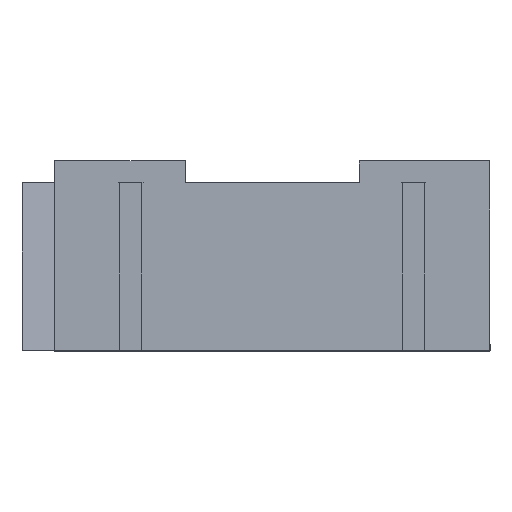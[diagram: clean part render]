
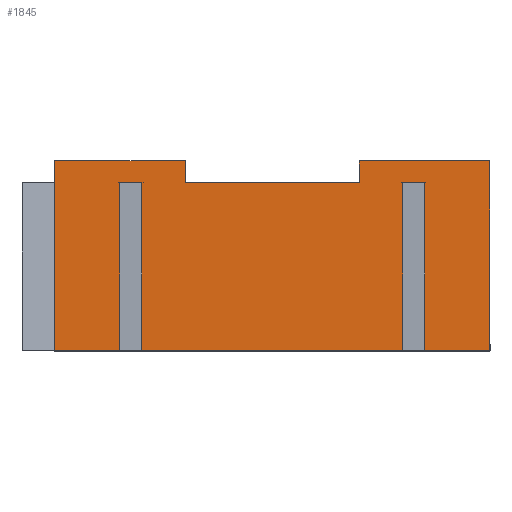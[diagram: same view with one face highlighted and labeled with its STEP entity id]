
A CAD part, top view. The second image highlights one B-rep face of the part: STEP entity #1845.
In plain terms, the highlighted planar face has unit normal (0, 0, 1).
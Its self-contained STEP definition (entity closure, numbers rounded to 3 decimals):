
#20 = VERTEX_POINT ( 'NONE', #1684 ) ;
#52 = LINE ( 'NONE', #1175, #1806 ) ;
#71 = CARTESIAN_POINT ( 'NONE',  ( -5.987, 7.7, 10. ) ) ;
#91 = LINE ( 'NONE', #1983, #540 ) ;
#120 = LINE ( 'NONE', #874, #1703 ) ;
#144 = EDGE_CURVE ( 'NONE', #1159, #496, #935, .T. ) ;
#177 = VECTOR ( 'NONE', #736, 1000. ) ;
#198 = LINE ( 'NONE', #667, #1369 ) ;
#200 = DIRECTION ( 'NONE',  ( 1., 0., 0. ) ) ;
#214 = ORIENTED_EDGE ( 'NONE', *, *, #1905, .F. ) ;
#241 = ORIENTED_EDGE ( 'NONE', *, *, #762, .T. ) ;
#246 = ORIENTED_EDGE ( 'NONE', *, *, #1658, .F. ) ;
#298 = ORIENTED_EDGE ( 'NONE', *, *, #1600, .T. ) ;
#330 = ORIENTED_EDGE ( 'NONE', *, *, #1887, .T. ) ;
#336 = CARTESIAN_POINT ( 'NONE',  ( -7.013, 0., 10. ) ) ;
#376 = VECTOR ( 'NONE', #1108, 1000. ) ;
#389 = DIRECTION ( 'NONE',  ( 1., 0., 0. ) ) ;
#393 = DIRECTION ( 'NONE',  ( 1., 0., 0. ) ) ;
#406 = ORIENTED_EDGE ( 'NONE', *, *, #2031, .F. ) ;
#408 = EDGE_CURVE ( 'NONE', #1197, #1601, #1131, .T. ) ;
#412 = FACE_OUTER_BOUND ( 'NONE', #603, .T. ) ;
#430 = CARTESIAN_POINT ( 'NONE',  ( 7.013, 0., 10. ) ) ;
#452 = EDGE_CURVE ( 'NONE', #471, #1223, #198, .T. ) ;
#471 = VERTEX_POINT ( 'NONE', #659 ) ;
#474 = CARTESIAN_POINT ( 'NONE',  ( 7.013, 7.7, 10. ) ) ;
#496 = VERTEX_POINT ( 'NONE', #1294 ) ;
#498 = VERTEX_POINT ( 'NONE', #1923 ) ;
#502 = CARTESIAN_POINT ( 'NONE',  ( 4., 8.7, 10. ) ) ;
#512 = CARTESIAN_POINT ( 'NONE',  ( 7.013, 7.7, 10. ) ) ;
#519 = CARTESIAN_POINT ( 'NONE',  ( 10., 8.7, 10. ) ) ;
#540 = VECTOR ( 'NONE', #1992, 1000. ) ;
#548 = VECTOR ( 'NONE', #1973, 1000. ) ;
#571 = LINE ( 'NONE', #630, #1439 ) ;
#597 = ORIENTED_EDGE ( 'NONE', *, *, #452, .T. ) ;
#601 = LINE ( 'NONE', #1372, #1004 ) ;
#603 = EDGE_LOOP ( 'NONE', ( #628, #1854, #1139, #241, #246, #1760, #1827, #1035, #597, #406, #1116, #298, #1613, #214, #330, #1994 ) ) ;
#628 = ORIENTED_EDGE ( 'NONE', *, *, #882, .T. ) ;
#630 = CARTESIAN_POINT ( 'NONE',  ( -5.987, 7.7, 10. ) ) ;
#641 = VECTOR ( 'NONE', #393, 1000. ) ;
#659 = CARTESIAN_POINT ( 'NONE',  ( -10., 0., 10. ) ) ;
#667 = CARTESIAN_POINT ( 'NONE',  ( -10., 0., 10. ) ) ;
#670 = LINE ( 'NONE', #821, #1402 ) ;
#678 = CARTESIAN_POINT ( 'NONE',  ( -4., 8.7, 10. ) ) ;
#736 = DIRECTION ( 'NONE',  ( 1., 0., 0. ) ) ;
#762 = EDGE_CURVE ( 'NONE', #1197, #20, #786, .T. ) ;
#786 = LINE ( 'NONE', #1579, #801 ) ;
#801 = VECTOR ( 'NONE', #1603, 1000. ) ;
#821 = CARTESIAN_POINT ( 'NONE',  ( -10., 7.7, 10. ) ) ;
#848 = DIRECTION ( 'NONE',  ( 0., 0., -1. ) ) ;
#859 = PLANE ( 'NONE',  #1963 ) ;
#874 = CARTESIAN_POINT ( 'NONE',  ( -10., 7.7, 10. ) ) ;
#882 = EDGE_CURVE ( 'NONE', #496, #498, #1851, .T. ) ;
#916 = EDGE_CURVE ( 'NONE', #1727, #471, #120, .T. ) ;
#924 = VERTEX_POINT ( 'NONE', #1185 ) ;
#935 = LINE ( 'NONE', #474, #376 ) ;
#950 = VERTEX_POINT ( 'NONE', #1584 ) ;
#971 = DIRECTION ( 'NONE',  ( 1., 0., 0. ) ) ;
#1004 = VECTOR ( 'NONE', #1723, 1000. ) ;
#1035 = ORIENTED_EDGE ( 'NONE', *, *, #916, .T. ) ;
#1067 = EDGE_CURVE ( 'NONE', #1601, #498, #1239, .T. ) ;
#1073 = VECTOR ( 'NONE', #1417, 1000. ) ;
#1101 = CARTESIAN_POINT ( 'NONE',  ( -10., 8.7, 10. ) ) ;
#1108 = DIRECTION ( 'NONE',  ( 0., -1., 0. ) ) ;
#1110 = EDGE_CURVE ( 'NONE', #1943, #1452, #670, .T. ) ;
#1116 = ORIENTED_EDGE ( 'NONE', *, *, #1110, .T. ) ;
#1131 = LINE ( 'NONE', #1609, #1141 ) ;
#1139 = ORIENTED_EDGE ( 'NONE', *, *, #408, .F. ) ;
#1141 = VECTOR ( 'NONE', #971, 1000. ) ;
#1159 = VERTEX_POINT ( 'NONE', #512 ) ;
#1161 = DIRECTION ( 'NONE',  ( 1., 0., 0. ) ) ;
#1171 = VERTEX_POINT ( 'NONE', #1926 ) ;
#1175 = CARTESIAN_POINT ( 'NONE',  ( -10., 8.7, 10. ) ) ;
#1184 = CARTESIAN_POINT ( 'NONE',  ( -4., 8.7, 10. ) ) ;
#1185 = CARTESIAN_POINT ( 'NONE',  ( 5.987, 7.7, 10. ) ) ;
#1197 = VERTEX_POINT ( 'NONE', #502 ) ;
#1199 = DIRECTION ( 'NONE',  ( 0., -1., 0. ) ) ;
#1203 = DIRECTION ( 'NONE',  ( 0., -1., 0. ) ) ;
#1223 = VERTEX_POINT ( 'NONE', #336 ) ;
#1239 = LINE ( 'NONE', #1400, #1073 ) ;
#1294 = CARTESIAN_POINT ( 'NONE',  ( 7.013, 0., 10. ) ) ;
#1362 = DIRECTION ( 'NONE',  ( -1., 0., 0. ) ) ;
#1367 = DIRECTION ( 'NONE',  ( 1., 0., 0. ) ) ;
#1369 = VECTOR ( 'NONE', #1161, 1000. ) ;
#1372 = CARTESIAN_POINT ( 'NONE',  ( -7.013, 7.7, 10. ) ) ;
#1400 = CARTESIAN_POINT ( 'NONE',  ( 10., 7.7, 10. ) ) ;
#1402 = VECTOR ( 'NONE', #200, 1000. ) ;
#1417 = DIRECTION ( 'NONE',  ( 0., -1., 0. ) ) ;
#1439 = VECTOR ( 'NONE', #1367, 1000. ) ;
#1452 = VERTEX_POINT ( 'NONE', #1974 ) ;
#1495 = CARTESIAN_POINT ( 'NONE',  ( 7.013, 7.7, 10. ) ) ;
#1499 = VERTEX_POINT ( 'NONE', #1184 ) ;
#1506 = LINE ( 'NONE', #71, #1708 ) ;
#1520 = LINE ( 'NONE', #1664, #548 ) ;
#1576 = EDGE_CURVE ( 'NONE', #1727, #1499, #52, .T. ) ;
#1579 = CARTESIAN_POINT ( 'NONE',  ( 4., 8.7, 10. ) ) ;
#1584 = CARTESIAN_POINT ( 'NONE',  ( -4., 7.7, 10. ) ) ;
#1600 = EDGE_CURVE ( 'NONE', #1452, #1171, #1506, .T. ) ;
#1601 = VERTEX_POINT ( 'NONE', #519 ) ;
#1603 = DIRECTION ( 'NONE',  ( 0., -1., 0. ) ) ;
#1609 = CARTESIAN_POINT ( 'NONE',  ( 10., 8.7, 10. ) ) ;
#1613 = ORIENTED_EDGE ( 'NONE', *, *, #1868, .T. ) ;
#1617 = EDGE_CURVE ( 'NONE', #1499, #950, #1817, .T. ) ;
#1658 = EDGE_CURVE ( 'NONE', #950, #20, #571, .T. ) ;
#1659 = VERTEX_POINT ( 'NONE', #1877 ) ;
#1664 = CARTESIAN_POINT ( 'NONE',  ( 10., 7.7, 10. ) ) ;
#1684 = CARTESIAN_POINT ( 'NONE',  ( 4., 7.7, 10. ) ) ;
#1686 = CARTESIAN_POINT ( 'NONE',  ( -5.987, 0., 10. ) ) ;
#1703 = VECTOR ( 'NONE', #1203, 1000. ) ;
#1708 = VECTOR ( 'NONE', #1199, 1000. ) ;
#1723 = DIRECTION ( 'NONE',  ( 0., -1., 0. ) ) ;
#1727 = VERTEX_POINT ( 'NONE', #1101 ) ;
#1760 = ORIENTED_EDGE ( 'NONE', *, *, #1617, .F. ) ;
#1792 = DIRECTION ( 'NONE',  ( 0., -1., 0. ) ) ;
#1806 = VECTOR ( 'NONE', #389, 1000. ) ;
#1811 = LINE ( 'NONE', #1686, #641 ) ;
#1817 = LINE ( 'NONE', #678, #2027 ) ;
#1827 = ORIENTED_EDGE ( 'NONE', *, *, #1576, .F. ) ;
#1845 = ADVANCED_FACE ( 'NONE', ( #412 ), #859, .F. ) ;
#1851 = LINE ( 'NONE', #430, #177 ) ;
#1854 = ORIENTED_EDGE ( 'NONE', *, *, #1067, .F. ) ;
#1868 = EDGE_CURVE ( 'NONE', #1171, #1659, #1811, .T. ) ;
#1877 = CARTESIAN_POINT ( 'NONE',  ( 5.987, 0., 10. ) ) ;
#1887 = EDGE_CURVE ( 'NONE', #924, #1159, #1520, .T. ) ;
#1905 = EDGE_CURVE ( 'NONE', #924, #1659, #91, .T. ) ;
#1923 = CARTESIAN_POINT ( 'NONE',  ( 10., 0., 10. ) ) ;
#1926 = CARTESIAN_POINT ( 'NONE',  ( -5.987, 0., 10. ) ) ;
#1943 = VERTEX_POINT ( 'NONE', #2039 ) ;
#1963 = AXIS2_PLACEMENT_3D ( 'NONE', #1495, #848, #1362 ) ;
#1973 = DIRECTION ( 'NONE',  ( 1., 0., 0. ) ) ;
#1974 = CARTESIAN_POINT ( 'NONE',  ( -5.987, 7.7, 10. ) ) ;
#1983 = CARTESIAN_POINT ( 'NONE',  ( 5.987, 7.7, 10. ) ) ;
#1992 = DIRECTION ( 'NONE',  ( 0., -1., 0. ) ) ;
#1994 = ORIENTED_EDGE ( 'NONE', *, *, #144, .T. ) ;
#2027 = VECTOR ( 'NONE', #1792, 1000. ) ;
#2031 = EDGE_CURVE ( 'NONE', #1943, #1223, #601, .T. ) ;
#2039 = CARTESIAN_POINT ( 'NONE',  ( -7.013, 7.7, 10. ) ) ;
